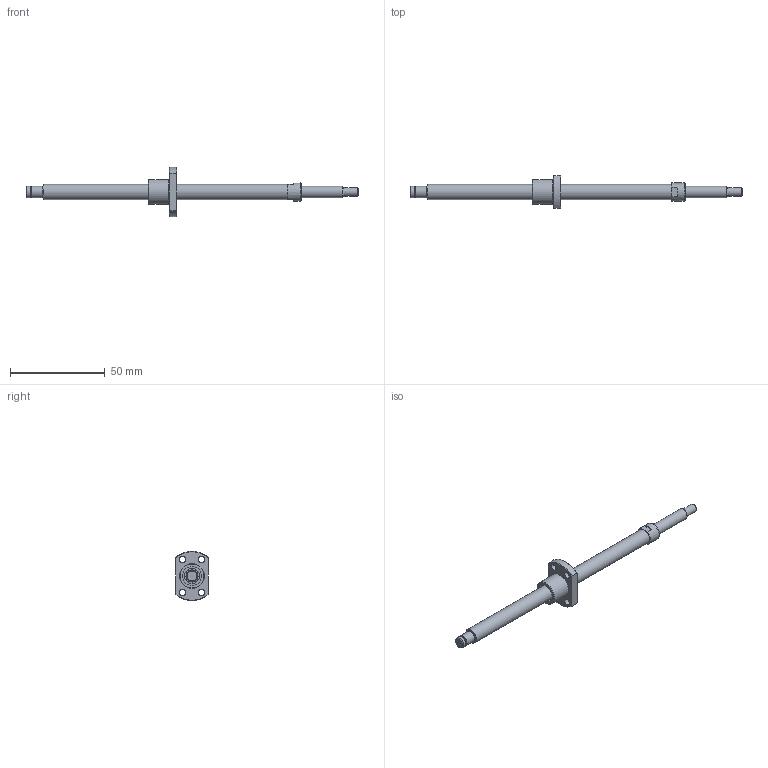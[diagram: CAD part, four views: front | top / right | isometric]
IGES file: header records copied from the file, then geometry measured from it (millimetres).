
Start section: Data from Parasolid IGES Translator 26.0.171, Copyright(c) 2006 Siemens PLM Software. All Rights Reserved.
Global section: file name: BNK0801-3G0+175LC5Y(70.5).igs; native system: By Siemens PLM Incorporated; preprocessor: XPlus GENERIC/IGES 26.0.171; author: Noname; organization: Noname; date: 20240709.082921; units: millimetre
Bounding box: 175 x 17 x 26 mm (x, y, z)
Surface area: 6262.9 mm2 (no closed solid volume)
Topology: 0 solids, 0 shells, 53 faces, 224 edges, 192 vertices
Faces by surface type: revolution 32, extrusion 21
